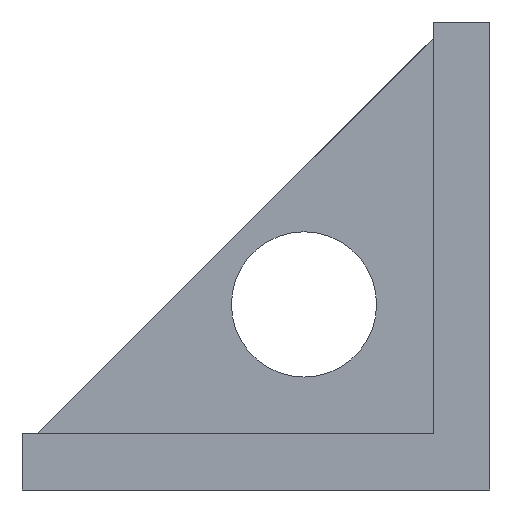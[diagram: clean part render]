
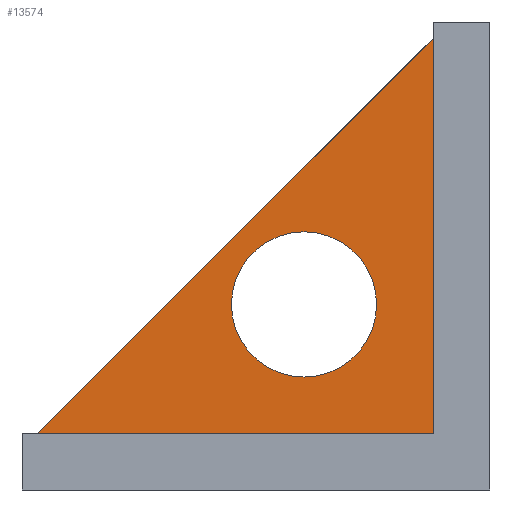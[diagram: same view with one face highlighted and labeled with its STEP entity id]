
A CAD part, left-side view. The second image highlights one B-rep face of the part: STEP entity #13574.
In plain terms, the highlighted planar face has unit normal (-1, 0, 0).
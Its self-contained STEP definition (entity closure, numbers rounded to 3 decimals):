
#7132=CARTESIAN_POINT('',(-42.593,14.,23.));
#7133=VERTEX_POINT('',#7132);
#7142=CARTESIAN_POINT('',(-42.593,32.,23.));
#7143=VERTEX_POINT('',#7142);
#7144=CARTESIAN_POINT('',(-42.593,23.,23.));
#7145=DIRECTION('',(1.0,0.0,0.0));
#7146=DIRECTION('',(0.0,-1.0,0.0));
#7147=AXIS2_PLACEMENT_3D('',#7144,#7145,#7146);
#7148=CIRCLE('',#7147,9.0);
#7149=EDGE_CURVE('',#7143,#7133,#7148,.T.);
#13142=CARTESIAN_POINT('',(-42.593,56.,7.));
#13143=VERTEX_POINT('',#13142);
#13144=CARTESIAN_POINT('',(-42.593,7.,56.));
#13145=VERTEX_POINT('',#13144);
#13146=CARTESIAN_POINT('',(-42.593,56.,7.));
#13147=DIRECTION('',(0.,-0.707,0.707));
#13148=VECTOR('',#13147,69.296);
#13149=LINE('',#13146,#13148);
#13150=EDGE_CURVE('',#13143,#13145,#13149,.T.);
#13488=CARTESIAN_POINT('',(-42.593,23.,23.));
#13489=DIRECTION('',(1.0,0.0,0.0));
#13490=DIRECTION('',(0.0,-1.0,0.0));
#13491=AXIS2_PLACEMENT_3D('',#13488,#13489,#13490);
#13492=CIRCLE('',#13491,9.0);
#13493=EDGE_CURVE('',#7133,#7143,#13492,.T.);
#13548=CARTESIAN_POINT('',(-42.593,24.324,24.324));
#13549=DIRECTION('',(1.0,0.0,0.0));
#13550=DIRECTION('',(0.0,1.0,0.0));
#13551=AXIS2_PLACEMENT_3D('',#13548,#13549,#13550);
#13552=PLANE('',#13551);
#13553=CARTESIAN_POINT('',(-42.593,7.,7.));
#13554=VERTEX_POINT('',#13553);
#13555=CARTESIAN_POINT('',(-42.593,7.,7.0));
#13556=DIRECTION('',(0.0,1.0,0.0));
#13557=VECTOR('',#13556,49.0);
#13558=LINE('',#13555,#13557);
#13559=EDGE_CURVE('',#13554,#13143,#13558,.T.);
#13560=ORIENTED_EDGE('',*,*,#13559,.F.);
#13561=CARTESIAN_POINT('',(-42.593,7.,56.));
#13562=DIRECTION('',(0.0,0.0,-1.0));
#13563=VECTOR('',#13562,49.);
#13564=LINE('',#13561,#13563);
#13565=EDGE_CURVE('',#13145,#13554,#13564,.T.);
#13566=ORIENTED_EDGE('',*,*,#13565,.F.);
#13567=ORIENTED_EDGE('',*,*,#13150,.F.);
#13568=EDGE_LOOP('',(#13560,#13566,#13567));
#13569=FACE_OUTER_BOUND('',#13568,.T.);
#13570=ORIENTED_EDGE('',*,*,#7149,.T.);
#13571=ORIENTED_EDGE('',*,*,#13493,.T.);
#13572=EDGE_LOOP('',(#13570,#13571));
#13573=FACE_BOUND('',#13572,.T.);
#13574=ADVANCED_FACE('',(#13569,#13573),#13552,.F.);
